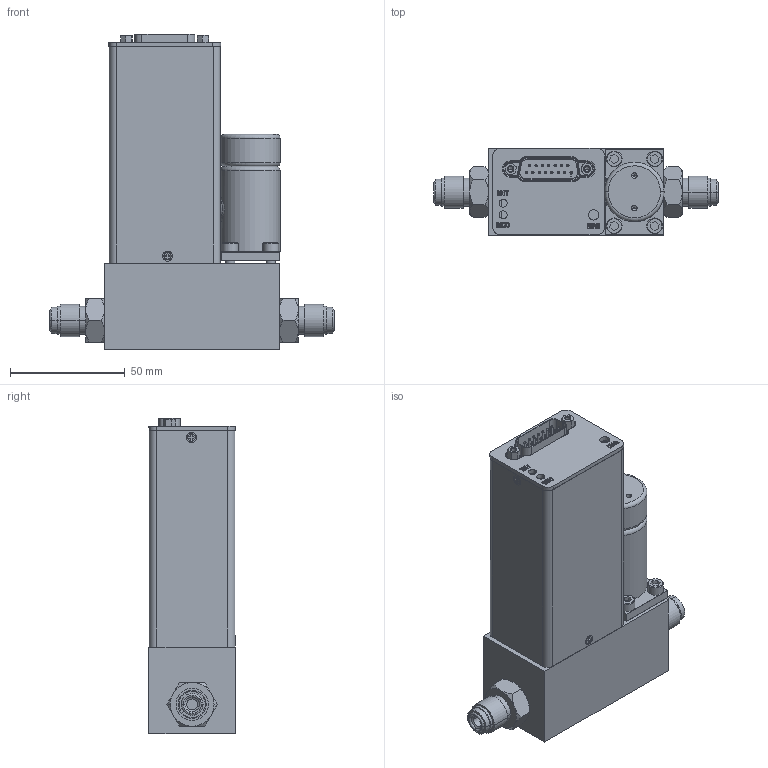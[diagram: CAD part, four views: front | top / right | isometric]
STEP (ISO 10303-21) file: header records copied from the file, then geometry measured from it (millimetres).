
FILE_DESCRIPTION (( 'STEP AP203' ), '1' );
FILE_NAME ('SLA5850-A-1E-1-B_REVB.STEP', '2024-02-23T20:11:54', ( '' ), ( '' ), 'SwSTEP 2.0', 'SolidWorks 2020', '' );
FILE_SCHEMA (( 'CONFIG_CONTROL_DESIGN' ));
Length unit declared in the file: inch
Products named in the file (1): SLA5850-A-1E-1-B_REVB
Bounding box: 124.1 x 37.86 x 137.39 mm (x, y, z)
Volume: 82909 mm3; surface area: 87964.3 mm2
Topology: 34 solids, 34 shells, 1297 faces, 3436 edges, 2220 vertices
Faces by surface type: plane 666, cylinder 322, cone 211, bspline 51, torus 47
Entity records: 45784 total; most frequent: CARTESIAN_POINT 13214, ORIENTED_EDGE 6844, DIRECTION 6659, EDGE_CURVE 3422, AXIS2_PLACEMENT_3D 2311, VERTEX_POINT 2220, VECTOR 2037, LINE 2037
